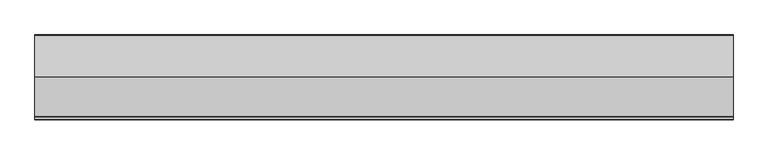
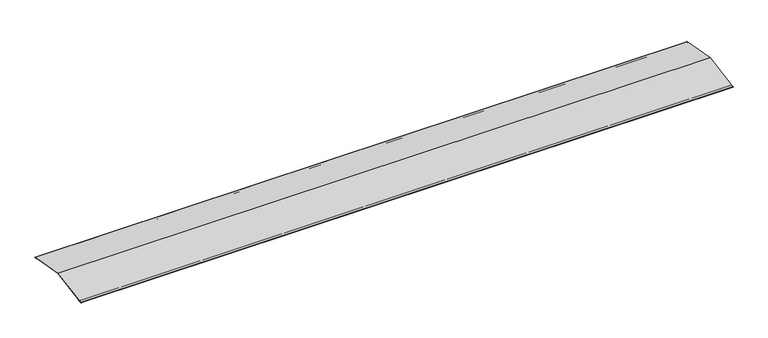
"""IFC4 building model written with IfcOpenShell, lengths in millimetres: proxy geometry, Faitaire a double plat : Faitaire a double plat."""

from ifc_helpers import new_model, si_unit, point, frame, frame_2d, origin, place, context, project, spatial, polyline, circle_curve, trimmed, segment, composite_curve, outline, extrude, source, transform, mapped, element, save


def generic_models_76f4f1b0(model_context):
    return source(origin(), model_context, "Body", "SweptSolid", [
        extrude(outline(composite_curve([segment(polyline([(-183.1742421, -31.2831344), (0.0, 1.0154266), (183.1742421, -31.2831344)]), True, "CONTINUOUS"), segment(trimmed(circle_curve(frame_2d((183.0005939, -32.2679422)), 1.0), [point((183.1742421, -31.2831344))], [point((182.8269457, -33.2527499))], False, "CARTESIAN"), True, "CONTINUOUS"), segment(polyline([(182.8269457, -33.2527499), (170.0244449, -30.9953236)]), True, "CONTINUOUS"), segment(trimmed(circle_curve(frame_2d((170.111269, -30.5029198)), 0.5), [point((170.0244449, -30.9953236))], [point((170.1980931, -30.0105159))], False, "CARTESIAN"), True, "CONTINUOUS"), segment(polyline([(170.1980931, -30.0105159), (0.0, 0.0), (-170.1980931, -30.0105159)]), True, "CONTINUOUS"), segment(trimmed(circle_curve(frame_2d((-170.111269, -30.5029198)), 0.5), [point((-170.1980931, -30.0105159))], [point((-170.0244449, -30.9953236))], False, "CARTESIAN"), True, "CONTINUOUS"), segment(polyline([(-170.0244449, -30.9953236), (-182.8269457, -33.2527499)]), True, "CONTINUOUS"), segment(trimmed(circle_curve(frame_2d((-183.0005939, -32.2679422)), 1.0), [point((-182.8269457, -33.2527499))], [point((-183.1742421, -31.2831344))], False, "CARTESIAN"), True, "CONTINUOUS")], self_intersect=False)), frame((0.0, 0.0, 0.0), z_axis=(1.0, 0.0, 0.0), x_axis=(0.0, 1.0, 0.0)), (0.0, 0.0, 1.0), 3022.0),
    ])


if __name__ == "__main__":
    model = new_model("IFC4")
    model_context = context("Model", 3, world=origin())
    ifc_project = project(units=[si_unit("LENGTHUNIT", "METRE", prefix="MILLI")], contexts=[model_context])
    site = spatial("IfcSite", under=ifc_project)
    building = spatial("IfcBuilding", under=site)
    placement = place(None, origin())
    generic_models_shape = generic_models_76f4f1b0(model_context)
    element("IfcBuildingElementProxy", 1, Name="Faitaire a double plat : Faitaire a double plat", ObjectType="Faitaire a double plat : Faitaire a double plat", at=placement, inside=building, context=model_context, shape_type="MappedRepresentation", body=[
        mapped(generic_models_shape, transform((0.0, 0.0, 0.0), x_axis=(1.0, 0.0, 0.0), y_axis=(0.0, 1.0, 0.0), z_axis=(0.0, 0.0, 1.0))),
    ])
    save(model, "model.ifc")
